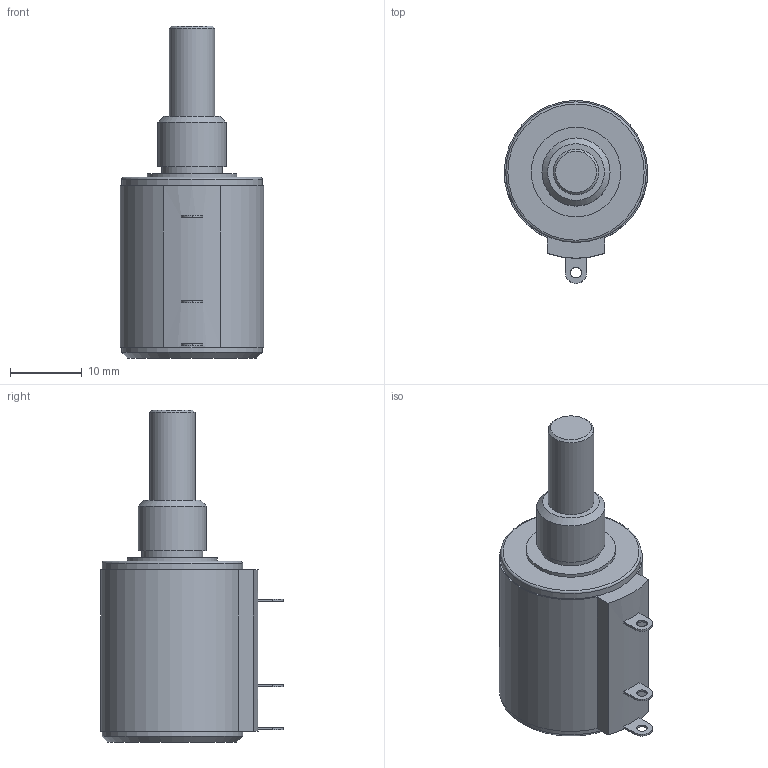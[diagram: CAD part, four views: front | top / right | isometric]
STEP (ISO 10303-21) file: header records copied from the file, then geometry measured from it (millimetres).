
FILE_DESCRIPTION (( 'STEP AP214' ), '1' );
FILE_NAME ('AC10-Dummy.STEP', '2019-05-02T06:31:30', ( '' ), ( '' ), 'SwSTEP 2.0', 'SolidWorks 2017', '' );
FILE_SCHEMA (( 'AUTOMOTIVE_DESIGN' ));
Length unit declared in the file: millimetre
Products named in the file (1): AC10-Dummy
Bounding box: 19.99 x 25.5 x 46.3 mm (x, y, z)
Volume: 9241.9 mm3; surface area: 2871.6 mm2
Topology: 1 solids, 1 shells, 43 faces, 99 edges, 67 vertices
Faces by surface type: plane 22, cylinder 17, cone 3, torus 1
Full cylindrical faces by diameter (mm): 1.5 x3, 6.35 x1, 8.5 x1, 9.5 x1, 12.5 x1, 19.6 x2
Entity records: 1159 total; most frequent: DIRECTION 211, CARTESIAN_POINT 183, ORIENTED_EDGE 158, AXIS2_PLACEMENT_3D 88, EDGE_CURVE 79, EDGE_LOOP 71, VERTEX_POINT 60, FACE_OUTER_BOUND 53
